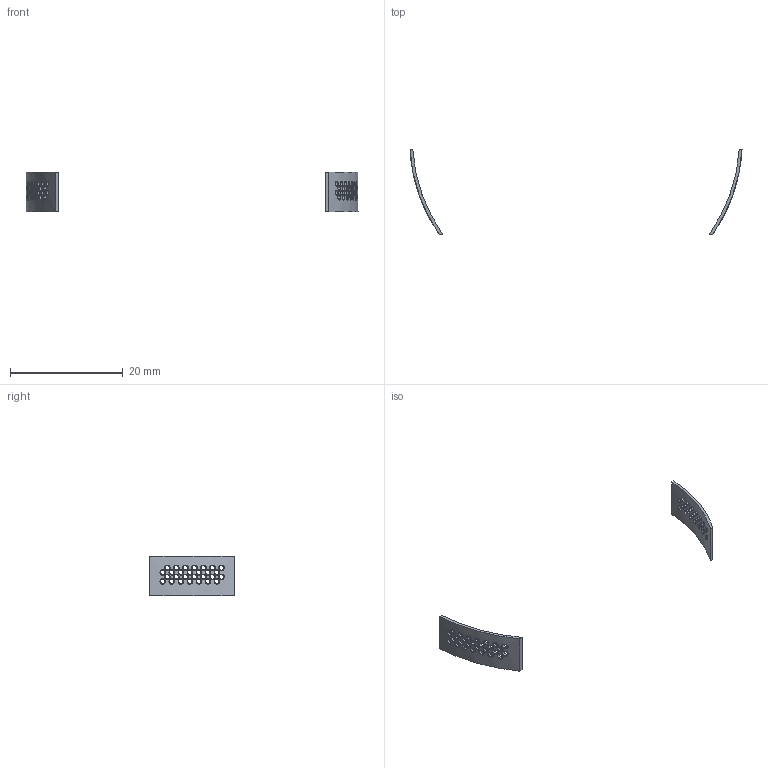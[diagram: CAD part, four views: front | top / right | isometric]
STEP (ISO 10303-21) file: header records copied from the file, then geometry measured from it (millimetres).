
FILE_DESCRIPTION((''),'2;1');
FILE_NAME('ID-GTC-SPEAKER-DECO_PRT','2008-06-30T',('GRA'),(''),'PRO/ENGINEER BY PARAMETRIC TECHNOLOGY CORPORATION, 2006170','PRO/ENGINEER BY PARAMETRIC TECHNOLOGY CORPORATION, 2006170','');
FILE_SCHEMA(('CONFIG_CONTROL_DESIGN'));
Length unit declared in the file: millimetre
Products named in the file (1): ID-GTC-SPEAKER-DECO_PRT
Bounding box: 58.89 x 15 x 7 mm (x, y, z)
Volume: 97.3 mm3; surface area: 506.5 mm2
Topology: 2 solids, 2 shells, 236 faces, 584 edges, 352 vertices
Faces by surface type: cylinder 116, bspline 112, plane 8
Entity records: 22564 total; most frequent: CARTESIAN_POINT 17784, ORIENTED_EDGE 1168, DIRECTION 616, EDGE_CURVE 584, VERTEX_POINT 352, EDGE_LOOP 348, B_SPLINE_CURVE_WITH_KNOTS 336, AXIS2_PLACEMENT_3D 244
